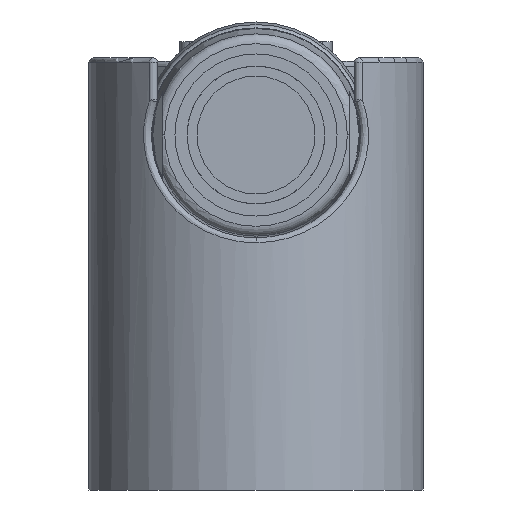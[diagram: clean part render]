
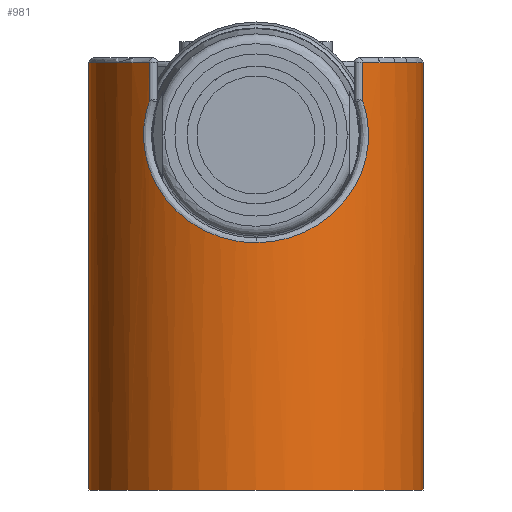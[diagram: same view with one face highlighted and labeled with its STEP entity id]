
A CAD part, front view. The second image highlights one B-rep face of the part: STEP entity #981.
In plain terms, the highlighted cylindrical face has radius 17 mm (diameter 34 mm), a partial arc.
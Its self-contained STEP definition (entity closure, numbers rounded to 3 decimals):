
#180=DIRECTION('',(0.,0.,1.));
#181=VECTOR('',#180,43.5);
#182=CARTESIAN_POINT('',(267.,0.,-74.5));
#183=LINE('',#182,#181);
#250=CARTESIAN_POINT('',(250.,0.,-31.));
#251=DIRECTION('',(0.,0.,1.));
#252=DIRECTION('',(0.636,-0.771,0.));
#253=AXIS2_PLACEMENT_3D('',#250,#251,#252);
#255=DIRECTION('',(0.,0.,1.));
#256=VECTOR('',#255,43.5);
#257=CARTESIAN_POINT('',(233.,0.,-74.5));
#258=LINE('',#257,#256);
#259=CARTESIAN_POINT('',(250.,0.,-31.));
#260=DIRECTION('',(0.,0.,1.));
#261=DIRECTION('',(-1.,0.,0.));
#262=AXIS2_PLACEMENT_3D('',#259,#260,#261);
#264=DIRECTION('',(0.,0.,1.));
#265=VECTOR('',#264,3.795);
#266=CARTESIAN_POINT('',(239.182,-13.114,-34.795));
#267=LINE('',#266,#265);
#268=CARTESIAN_POINT('',(239.182,-13.114,-34.795));
#269=CARTESIAN_POINT('',(239.04,-12.997,-35.187));
#270=CARTESIAN_POINT('',(238.809,-12.798,-35.969));
#271=CARTESIAN_POINT('',(238.606,-12.617,-37.124));
#272=CARTESIAN_POINT('',(238.533,-12.551,-38.249));
#273=CARTESIAN_POINT('',(238.58,-12.593,-39.368));
#274=CARTESIAN_POINT('',(238.752,-12.748,-40.512));
#275=CARTESIAN_POINT('',(239.069,-13.023,-41.699));
#276=CARTESIAN_POINT('',(239.565,-13.427,-42.937));
#277=CARTESIAN_POINT('',(240.27,-13.952,-44.196));
#278=CARTESIAN_POINT('',(241.189,-14.554,-45.412));
#279=CARTESIAN_POINT('',(242.283,-15.166,-46.504));
#280=CARTESIAN_POINT('',(243.494,-15.725,-47.421));
#281=CARTESIAN_POINT('',(244.772,-16.195,-48.15));
#282=CARTESIAN_POINT('',(246.086,-16.562,-48.697));
#283=CARTESIAN_POINT('',(247.416,-16.821,-49.073));
#284=CARTESIAN_POINT('',(248.753,-16.972,-49.29));
#285=CARTESIAN_POINT('',(249.646,-17.002,-49.334));
#286=CARTESIAN_POINT('',(250.091,-17.,-49.33));
#288=CARTESIAN_POINT('',(250.091,-17.,-49.33));
#289=CARTESIAN_POINT('',(250.531,-16.998,-49.327));
#290=CARTESIAN_POINT('',(251.415,-16.958,-49.271));
#291=CARTESIAN_POINT('',(252.739,-16.796,-49.038));
#292=CARTESIAN_POINT('',(254.056,-16.527,-48.646));
#293=CARTESIAN_POINT('',(255.355,-16.154,-48.086));
#294=CARTESIAN_POINT('',(256.617,-15.679,-47.347));
#295=CARTESIAN_POINT('',(257.808,-15.119,-46.423));
#296=CARTESIAN_POINT('',(258.88,-14.512,-45.331));
#297=CARTESIAN_POINT('',(259.777,-13.918,-44.122));
#298=CARTESIAN_POINT('',(260.464,-13.405,-42.874));
#299=CARTESIAN_POINT('',(260.946,-13.01,-41.651));
#300=CARTESIAN_POINT('',(261.255,-12.742,-40.477));
#301=CARTESIAN_POINT('',(261.422,-12.592,-39.345));
#302=CARTESIAN_POINT('',(261.466,-12.551,-38.235));
#303=CARTESIAN_POINT('',(261.393,-12.618,-37.123));
#304=CARTESIAN_POINT('',(261.194,-12.796,-35.982));
#305=CARTESIAN_POINT('',(260.963,-12.994,-35.193));
#306=CARTESIAN_POINT('',(260.818,-13.114,-34.794));
#308=DIRECTION('',(0.,0.,-1.));
#309=VECTOR('',#308,3.794);
#310=CARTESIAN_POINT('',(260.818,-13.114,-31.));
#311=LINE('',#310,#309);
#317=CARTESIAN_POINT('',(250.,0.,-74.5));
#318=DIRECTION('',(0.,0.,1.));
#319=DIRECTION('',(-1.,0.,0.));
#320=AXIS2_PLACEMENT_3D('',#317,#318,#319);
#451=CARTESIAN_POINT('',(267.,0.,-74.5));
#452=CARTESIAN_POINT('',(233.,0.,-74.5));
#453=VERTEX_POINT('',#451);
#454=VERTEX_POINT('',#452);
#455=CARTESIAN_POINT('',(267.,0.,-31.));
#457=VERTEX_POINT('',#455);
#459=CARTESIAN_POINT('',(260.818,-13.114,-31.));
#460=VERTEX_POINT('',#459);
#478=CARTESIAN_POINT('',(260.818,-13.114,-34.794));
#479=VERTEX_POINT('',#478);
#480=VERTEX_POINT('',#288);
#483=VERTEX_POINT('',#268);
#484=CARTESIAN_POINT('',(239.182,-13.114,-31.));
#485=VERTEX_POINT('',#484);
#499=CARTESIAN_POINT('',(233.,0.,-31.));
#500=VERTEX_POINT('',#499);
#960=CARTESIAN_POINT('',(250.,0.,-74.5));
#961=DIRECTION('',(0.,0.,1.));
#962=DIRECTION('',(1.,0.,0.));
#963=AXIS2_PLACEMENT_3D('',#960,#961,#962);
#964=CYLINDRICAL_SURFACE('',#963,17.);
#965=ORIENTED_EDGE('',*,*,#764,.T.);
#966=ORIENTED_EDGE('',*,*,#749,.F.);
#968=ORIENTED_EDGE('',*,*,#967,.F.);
#969=ORIENTED_EDGE('',*,*,#745,.T.);
#971=ORIENTED_EDGE('',*,*,#970,.T.);
#973=ORIENTED_EDGE('',*,*,#972,.F.);
#975=ORIENTED_EDGE('',*,*,#974,.T.);
#977=ORIENTED_EDGE('',*,*,#976,.T.);
#978=ORIENTED_EDGE('',*,*,#510,.F.);
#979=EDGE_LOOP('',(#965,#966,#968,#969,#971,#973,#975,#977,#978));
#980=FACE_OUTER_BOUND('',#979,.F.);
#981=ADVANCED_FACE('',(#980),#964,.T.);
#254=CIRCLE('',#253,17.);
#263=CIRCLE('',#262,17.);
#287=B_SPLINE_CURVE_WITH_KNOTS('',3,(#268,#269,#270,#271,#272,#273,#274,#275,
#276,#277,#278,#279,#280,#281,#282,#283,#284,#285,#286),.UNSPECIFIED.,.F.,.F.,
(4,1,1,1,1,1,1,1,1,1,1,1,1,1,1,1,4),(0.,0.063,0.125,0.188,0.25,
0.313,0.375,0.438,0.5,0.563,0.625,0.688,0.75,0.813,
0.875,0.938,1.),.UNSPECIFIED.);
#307=B_SPLINE_CURVE_WITH_KNOTS('',3,(#288,#289,#290,#291,#292,#293,#294,#295,
#296,#297,#298,#299,#300,#301,#302,#303,#304,#305,#306),.UNSPECIFIED.,.F.,.F.,
(4,1,1,1,1,1,1,1,1,1,1,1,1,1,1,1,4),(0.,0.063,0.125,0.188,0.25,
0.313,0.375,0.438,0.5,0.563,0.625,0.688,0.75,0.813,
0.875,0.938,1.),.UNSPECIFIED.);
#321=CIRCLE('',#320,17.);
#510=EDGE_CURVE('',#460,#479,#311,.T.);
#745=EDGE_CURVE('',#454,#500,#258,.T.);
#749=EDGE_CURVE('',#453,#457,#183,.T.);
#764=EDGE_CURVE('',#460,#457,#254,.T.);
#967=EDGE_CURVE('',#454,#453,#321,.T.);
#970=EDGE_CURVE('',#500,#485,#263,.T.);
#972=EDGE_CURVE('',#483,#485,#267,.T.);
#974=EDGE_CURVE('',#483,#480,#287,.T.);
#976=EDGE_CURVE('',#480,#479,#307,.T.);
